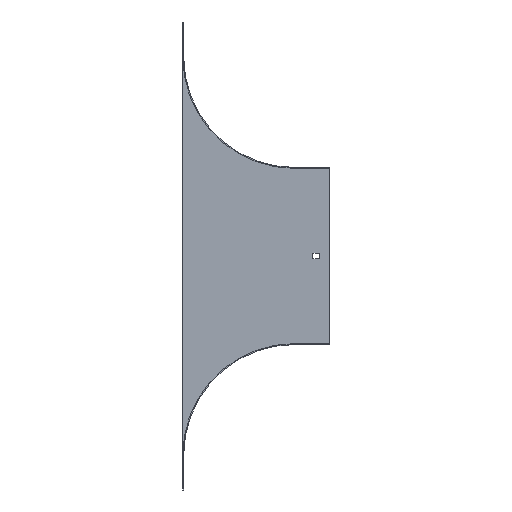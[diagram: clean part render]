
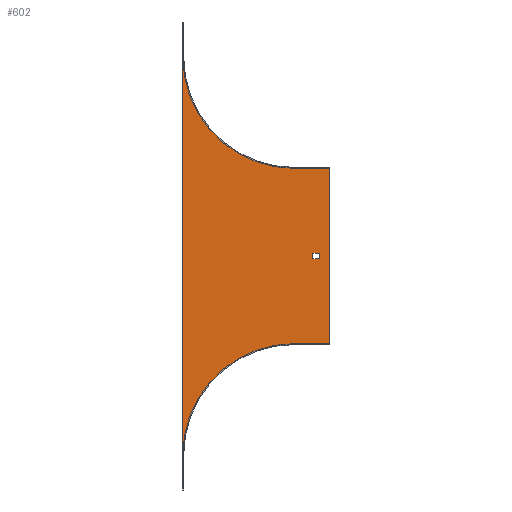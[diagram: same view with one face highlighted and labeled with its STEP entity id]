
A CAD part, front view. The second image highlights one B-rep face of the part: STEP entity #602.
In plain terms, the highlighted planar face has unit normal (0, -1, 0).
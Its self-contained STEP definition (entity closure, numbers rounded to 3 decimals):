
#24 = ORIENTED_EDGE ( 'NONE', *, *, #563, .F. ) ;
#42 = CARTESIAN_POINT ( 'NONE',  ( 0., -1., 0. ) ) ;
#66 = VECTOR ( 'NONE', #90, 1000. ) ;
#73 = CARTESIAN_POINT ( 'NONE',  ( 40., -1., -327. ) ) ;
#76 = CARTESIAN_POINT ( 'NONE',  ( -127., -1., 0. ) ) ;
#77 = VECTOR ( 'NONE', #208, 1000. ) ;
#81 = LINE ( 'NONE', #145, #66 ) ;
#90 = DIRECTION ( 'NONE',  ( 0., 0., 1. ) ) ;
#98 = ORIENTED_EDGE ( 'NONE', *, *, #270, .F. ) ;
#110 = VECTOR ( 'NONE', #130, 1000. ) ;
#113 = CARTESIAN_POINT ( 'NONE',  ( -127., -1., -494. ) ) ;
#129 = VERTEX_POINT ( 'NONE', #240 ) ;
#130 = DIRECTION ( 'NONE',  ( 0., 0., -1. ) ) ;
#136 = EDGE_CURVE ( 'NONE', #334, #164, #183, .T. ) ;
#139 = ORIENTED_EDGE ( 'NONE', *, *, #524, .F. ) ;
#145 = CARTESIAN_POINT ( 'NONE',  ( 28.5, -1., 0. ) ) ;
#160 = EDGE_CURVE ( 'NONE', #164, #554, #401, .T. ) ;
#164 = VERTEX_POINT ( 'NONE', #626 ) ;
#172 = ORIENTED_EDGE ( 'NONE', *, *, #160, .F. ) ;
#176 = VECTOR ( 'NONE', #578, 1000. ) ;
#183 = LINE ( 'NONE', #388, #727 ) ;
#189 = DIRECTION ( 'NONE',  ( 0., -1., 0. ) ) ;
#205 = CARTESIAN_POINT ( 'NONE',  ( 0., -1., 0. ) ) ;
#208 = DIRECTION ( 'NONE',  ( 0., 0., 1. ) ) ;
#240 = CARTESIAN_POINT ( 'NONE',  ( 28.5, -1., -230. ) ) ;
#246 = FACE_OUTER_BOUND ( 'NONE', #414, .T. ) ;
#247 = DIRECTION ( 'NONE',  ( 0., 0., -1. ) ) ;
#250 = LINE ( 'NONE', #356, #176 ) ;
#254 = AXIS2_PLACEMENT_3D ( 'NONE', #205, #189, #516 ) ;
#270 = EDGE_CURVE ( 'NONE', #348, #491, #346, .T. ) ;
#302 = CARTESIAN_POINT ( 'NONE',  ( 0., -1., -327. ) ) ;
#303 = CIRCLE ( 'NONE', #520, 127. ) ;
#310 = VERTEX_POINT ( 'NONE', #413 ) ;
#334 = VERTEX_POINT ( 'NONE', #689 ) ;
#346 = CIRCLE ( 'NONE', #533, 127. ) ;
#348 = VERTEX_POINT ( 'NONE', #302 ) ;
#352 = CARTESIAN_POINT ( 'NONE',  ( 0., -1., -230. ) ) ;
#356 = CARTESIAN_POINT ( 'NONE',  ( 0., -1., -327. ) ) ;
#388 = CARTESIAN_POINT ( 'NONE',  ( 0., -1., -127. ) ) ;
#395 = EDGE_CURVE ( 'NONE', #535, #334, #303, .T. ) ;
#396 = VERTEX_POINT ( 'NONE', #723 ) ;
#401 = LINE ( 'NONE', #634, #110 ) ;
#405 = CARTESIAN_POINT ( 'NONE',  ( 28.5, -1., -224. ) ) ;
#410 = DIRECTION ( 'NONE',  ( -1., 0., 0. ) ) ;
#413 = CARTESIAN_POINT ( 'NONE',  ( 21.5, -1., -224. ) ) ;
#414 = EDGE_LOOP ( 'NONE', ( #98, #649, #172, #671, #646, #697 ) ) ;
#418 = VERTEX_POINT ( 'NONE', #405 ) ;
#419 = DIRECTION ( 'NONE',  ( 1., 0., 0. ) ) ;
#424 = EDGE_CURVE ( 'NONE', #491, #535, #536, .T. ) ;
#429 = DIRECTION ( 'NONE',  ( 0., 0., -1. ) ) ;
#438 = CARTESIAN_POINT ( 'NONE',  ( -127., -1., -454. ) ) ;
#450 = VECTOR ( 'NONE', #410, 1000. ) ;
#459 = VECTOR ( 'NONE', #476, 1000. ) ;
#476 = DIRECTION ( 'NONE',  ( 0., 0., -1. ) ) ;
#491 = VERTEX_POINT ( 'NONE', #438 ) ;
#493 = DIRECTION ( 'NONE',  ( 0., -1., 0. ) ) ;
#516 = DIRECTION ( 'NONE',  ( 0., 0., -1. ) ) ;
#517 = CARTESIAN_POINT ( 'NONE',  ( 0., -1., -454. ) ) ;
#519 = FACE_BOUND ( 'NONE', #606, .T. ) ;
#520 = AXIS2_PLACEMENT_3D ( 'NONE', #42, #493, #429 ) ;
#524 = EDGE_CURVE ( 'NONE', #396, #129, #556, .T. ) ;
#525 = EDGE_CURVE ( 'NONE', #554, #348, #250, .T. ) ;
#533 = AXIS2_PLACEMENT_3D ( 'NONE', #517, #696, #247 ) ;
#535 = VERTEX_POINT ( 'NONE', #76 ) ;
#536 = LINE ( 'NONE', #113, #77 ) ;
#539 = EDGE_CURVE ( 'NONE', #418, #310, #650, .T. ) ;
#550 = EDGE_CURVE ( 'NONE', #310, #396, #575, .T. ) ;
#554 = VERTEX_POINT ( 'NONE', #73 ) ;
#556 = LINE ( 'NONE', #352, #698 ) ;
#563 = EDGE_CURVE ( 'NONE', #129, #418, #81, .T. ) ;
#575 = LINE ( 'NONE', #643, #459 ) ;
#578 = DIRECTION ( 'NONE',  ( -1., 0., 0. ) ) ;
#583 = CARTESIAN_POINT ( 'NONE',  ( 0., -1., -224. ) ) ;
#602 = ADVANCED_FACE ( 'NONE', ( #519, #246 ), #704, .T. ) ;
#606 = EDGE_LOOP ( 'NONE', ( #641, #635, #24, #139 ) ) ;
#626 = CARTESIAN_POINT ( 'NONE',  ( 40., -1., -127. ) ) ;
#634 = CARTESIAN_POINT ( 'NONE',  ( 40., -1., -126. ) ) ;
#635 = ORIENTED_EDGE ( 'NONE', *, *, #539, .F. ) ;
#641 = ORIENTED_EDGE ( 'NONE', *, *, #550, .F. ) ;
#643 = CARTESIAN_POINT ( 'NONE',  ( 21.5, -1., 0. ) ) ;
#646 = ORIENTED_EDGE ( 'NONE', *, *, #395, .F. ) ;
#649 = ORIENTED_EDGE ( 'NONE', *, *, #525, .F. ) ;
#650 = LINE ( 'NONE', #583, #450 ) ;
#671 = ORIENTED_EDGE ( 'NONE', *, *, #136, .F. ) ;
#683 = DIRECTION ( 'NONE',  ( 1., 0., 0. ) ) ;
#689 = CARTESIAN_POINT ( 'NONE',  ( 0., -1., -127. ) ) ;
#696 = DIRECTION ( 'NONE',  ( 0., -1., 0. ) ) ;
#697 = ORIENTED_EDGE ( 'NONE', *, *, #424, .F. ) ;
#698 = VECTOR ( 'NONE', #419, 1000. ) ;
#704 = PLANE ( 'NONE',  #254 ) ;
#723 = CARTESIAN_POINT ( 'NONE',  ( 21.5, -1., -230. ) ) ;
#727 = VECTOR ( 'NONE', #683, 1000. ) ;
